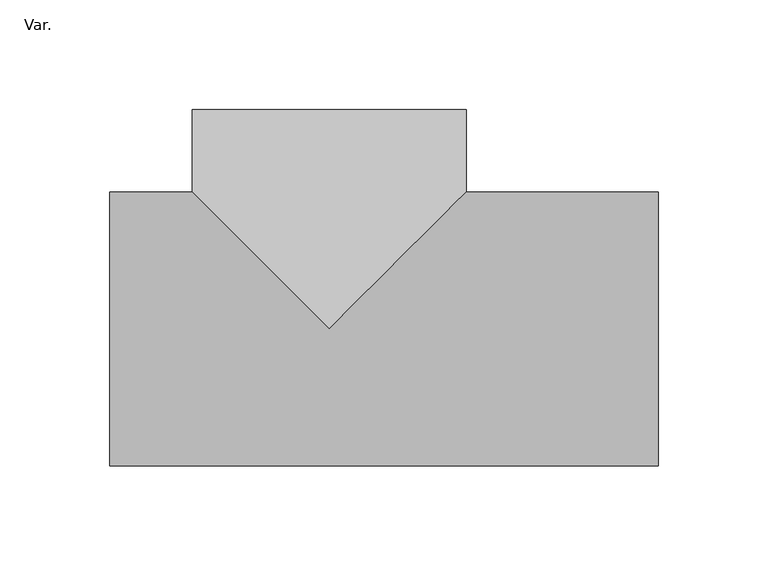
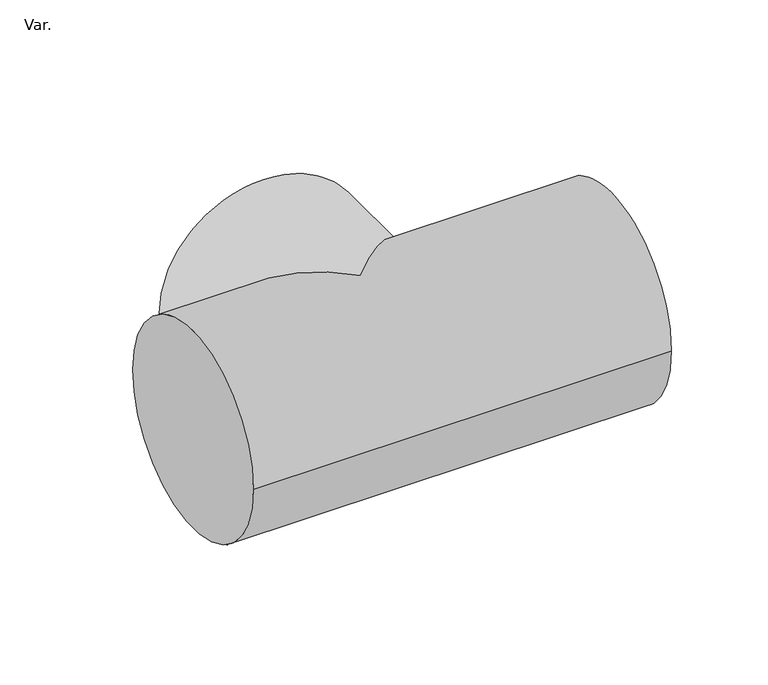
"""IFC4 building model written with IfcOpenShell, lengths in millimetres: pipe fitting geometry, NLRS_52_PIF_UN_HDPE branch_Akatherm : Var.."""

import ifcopenshell
import ifcopenshell.guid

model = None  # the IFC model being written
_history = None  # IfcOwnerHistory: only IFC2X3 demands one
_inside = {}  # id of a spatial element -> (the spatial element, [elements in it])
_under = {}  # id of a project, library or spatial element -> (it, [spatial elements below it])
_declared = {}  # id of a project -> (the project, [libraries it declares])
_typed = {}  # id of a type object -> (the type object, [elements of that type])
_made_of = {}  # id of a material, layer set ... -> (it, [elements and type objects made of it])


def new_model(schema):
    """Start an empty IFC model of exactly this schema.

    Asked for "IFC4X3", IfcOpenShell would pick the latest addendum, in which some entities
    have other attributes; the version numbers below select the first issue.
    IFC2X3 requires an IfcOwnerHistory on every rooted entity: one is made here for all.
    """
    global model, _history
    if schema == "IFC4X3":
        model = ifcopenshell.file(schema_version=(4, 3, 0, 0))
    else:
        model = ifcopenshell.file(schema=schema)
    _inside.clear()
    _under.clear()
    _declared.clear()
    _typed.clear()
    _made_of.clear()
    _history = None
    if model.schema == "IFC2X3":
        org = make("IfcOrganization", Name="unknown")
        user = make(
            "IfcPersonAndOrganization",
            ThePerson=make("IfcPerson", FamilyName="unknown"),
            TheOrganization=org,
        )
        app = make(
            "IfcApplication",
            ApplicationDeveloper=org,
            Version="unknown",
            ApplicationFullName="unknown",
            ApplicationIdentifier="unknown",
        )
        _history = make(
            "IfcOwnerHistory",
            OwningUser=user,
            OwningApplication=app,
            ChangeAction="ADDED",
            CreationDate=0,
        )
    return model


def make(cls, **values):
    """One entity of the class cls with the attributes given. An attribute that is None is left unset."""
    return model.create_entity(
        cls, **{name: value for name, value in values.items() if value is not None}
    )


def rooted(cls, **values):
    """An entity with a GlobalId (a new one), such as an element, a storey or a relation."""
    return make(cls, GlobalId=ifcopenshell.guid.new(), OwnerHistory=_history, **values)


def si_unit(unit_type, name, prefix=None):
    """IfcSIUnit, for example si_unit("LENGTHUNIT", "METRE", prefix="MILLI")."""
    return make("IfcSIUnit", UnitType=unit_type, Prefix=prefix, Name=name)


def assignment(units):
    """IfcUnitAssignment: the units of a project."""
    return None if units is None else make("IfcUnitAssignment", Units=units)


def point(xyz):
    """IfcCartesianPoint."""
    return None if xyz is None else make("IfcCartesianPoint", Coordinates=xyz)


def direction(xyz):
    """IfcDirection."""
    return None if xyz is None else make("IfcDirection", DirectionRatios=xyz)


def frame(location, z_axis=None, x_axis=None):
    """IfcAxis2Placement3D, a coordinate frame: its origin and axes. An axis left out is left unset."""
    return make(
        "IfcAxis2Placement3D",
        Location=point(location),
        Axis=direction(z_axis),
        RefDirection=direction(x_axis),
    )


def origin():
    """The frame at (0, 0, 0) with its axes left unset."""
    return frame((0.0, 0.0, 0.0))


def place(relative_to, where):
    """IfcLocalPlacement: puts the frame where relative to a parent placement (None: the world)."""
    return make(
        "IfcLocalPlacement", PlacementRelTo=relative_to, RelativePlacement=where
    )


def context(
    kind, dimensions, precision=None, world=None, true_north=None, identifier=None
):
    """IfcGeometricRepresentationContext, for example the 3D "Model" context."""
    return make(
        "IfcGeometricRepresentationContext",
        ContextIdentifier=identifier,
        ContextType=kind,
        CoordinateSpaceDimension=dimensions,
        Precision=precision,
        WorldCoordinateSystem=world,
        TrueNorth=true_north,
    )


def project(units=None, contexts=None):
    """IfcProject with its units and contexts."""
    return rooted(
        "IfcProject",
        Name="project",
        RepresentationContexts=contexts,
        UnitsInContext=assignment(units),
    )


def spatial(cls, under=None, at=None, **own):
    """A site, building, storey or space (cls), placed at a placement, below another one or the project."""
    s = rooted(cls, ObjectPlacement=at, **own)
    if under is not None:
        _under.setdefault(under.id(), (under, []))[1].append(s)
    return s


def circle_curve(where, radius):
    """IfcCircle in the frame where."""
    return make("IfcCircle", Position=where, Radius=radius)


def ellipse_curve(where, semi_axis1, semi_axis2):
    """IfcEllipse in the frame where."""
    return make(
        "IfcEllipse", Position=where, SemiAxis1=semi_axis1, SemiAxis2=semi_axis2
    )


def shape(context_of_items, identifier, shape_type, items):
    """IfcShapeRepresentation: the items that make up one representation, for example the "Body"."""
    return make(
        "IfcShapeRepresentation",
        ContextOfItems=context_of_items,
        RepresentationIdentifier=identifier,
        RepresentationType=shape_type,
        Items=items,
    )


def source(mapping_origin, context_of_items, identifier, shape_type, items):
    """IfcRepresentationMap: a shape defined once, which mapped items show again and again."""
    return make(
        "IfcRepresentationMap",
        MappingOrigin=mapping_origin,
        MappedRepresentation=shape(context_of_items, identifier, shape_type, items),
    )


def transform(
    local_origin,
    x_axis=None,
    y_axis=None,
    z_axis=None,
    scale=None,
    scale2=None,
    scale3=None,
    uniform=True,
):
    """IfcCartesianTransformationOperator3D, or its non-uniform kind. x_axis, y_axis, z_axis: its Axis1, 2, 3."""
    if uniform:
        return make(
            "IfcCartesianTransformationOperator3D",
            Axis1=direction(x_axis),
            Axis2=direction(y_axis),
            LocalOrigin=point(local_origin),
            Scale=scale,
            Axis3=direction(z_axis),
        )
    return make(
        "IfcCartesianTransformationOperator3DnonUniform",
        Axis1=direction(x_axis),
        Axis2=direction(y_axis),
        LocalOrigin=point(local_origin),
        Scale=scale,
        Axis3=direction(z_axis),
        Scale2=scale2,
        Scale3=scale3,
    )


def mapped(mapping_source, mapping_target):
    """IfcMappedItem: shows the shape of a source again, moved by a transform."""
    return make(
        "IfcMappedItem", MappingSource=mapping_source, MappingTarget=mapping_target
    )


def made_of(thing, what):
    """Note that an element or type object is made of a material, layer set ...; save() writes the relation."""
    if what is not None:
        _made_of.setdefault(what.id(), (what, []))[1].append(thing)
    return thing


def element(
    cls,
    number,
    at=None,
    inside=None,
    cuts=None,
    type_object=None,
    material=None,
    context=None,
    identifier="Body",
    shape_type=None,
    held_by="IfcProductDefinitionShape",
    body=None,
    shapes=None,
    **own,
):
    """One element of the class cls, such as IfcWall. Its Tag is "e" and its number.

    at: its placement. inside: the storey or other place that contains it. cuts: it is an
    opening in that element (IfcRelVoidsElement). A single representation is given by context,
    identifier, shape_type and body (its items); several are given by shapes. held_by: the class
    of the entity that holds the representations. save() writes the other relations.
    """
    e = rooted(cls, Tag="e%d" % number, ObjectPlacement=at, **own)
    if body is not None:
        shapes = [shape(context, identifier, shape_type, body)]
    if shapes is not None:
        e.Representation = make(held_by, Representations=shapes)
    if inside is not None:
        _inside.setdefault(inside.id(), (inside, []))[1].append(e)
    if cuts is not None:
        rooted(
            "IfcRelVoidsElement", RelatingBuildingElement=cuts, RelatedOpeningElement=e
        )
    if type_object is not None:
        _typed.setdefault(type_object.id(), (type_object, []))[1].append(e)
    return made_of(e, material)


def aggregate(whole, parts):
    """IfcRelAggregates: a whole, such as a stair, and the parts it consists of."""
    return rooted("IfcRelAggregates", RelatingObject=whole, RelatedObjects=parts)


def save(model, path):
    """Write the relations noted so far, then the file.

    IfcRelAggregates (storeys below a building ...), IfcRelContainedInSpatialStructure (elements
    in a storey), IfcRelDefinesByType, IfcRelAssociatesMaterial and IfcRelDeclares: one each for
    every whole, place, type object, material and project.
    """
    for whole, parts in _under.values():
        aggregate(whole, parts)
    for where, things in _inside.values():
        rooted(
            "IfcRelContainedInSpatialStructure",
            RelatedElements=things,
            RelatingStructure=where,
        )
    for kind, things in _typed.values():
        rooted("IfcRelDefinesByType", RelatedObjects=things, RelatingType=kind)
    for what, things in _made_of.values():
        rooted("IfcRelAssociatesMaterial", RelatedObjects=things, RelatingMaterial=what)
    for by, libraries in _declared.values():
        rooted("IfcRelDeclares", RelatingContext=by, RelatedDefinitions=libraries)
    model.write(path)


def plane_surface(at):
    """IfcPlane: the flat surface through the origin of the frame at, square to its z axis."""
    return make("IfcPlane", Position=at)


def cylinder_surface(at, radius):
    """IfcCylindricalSurface: all points at the distance radius from the z axis of the frame at."""
    return make("IfcCylindricalSurface", Position=at, Radius=radius)


def advanced_brep(points, edges, surfaces, faces):
    """IfcAdvancedBrep: a solid bounded by faces that lie on surfaces and meet in shared edges.

    An edge is (start, end): straight between two places in points (the first is 0);
    or (start, end, curve); or (start, end, curve, False) where it runs against its curve.
    A face is (place in surfaces, loops), or (place, loops, False) where it looks against
    its surface's normal. A loop lists edges by number (the first is 1), with a minus sign
    where the edge is run from its end to its start. The first loop is the outer one.
    """
    corners = [point(p) for p in points]
    vertices = [make("IfcVertexPoint", VertexGeometry=c) for c in corners]
    made = []
    for start, end, *more in edges:
        made.append(
            make(
                "IfcEdgeCurve",
                EdgeStart=vertices[start],
                EdgeEnd=vertices[end],
                EdgeGeometry=more[0] if more else make("IfcPolyline", Points=[corners[start], corners[end]]),
                SameSense=more[1] if len(more) > 1 else True,
            )
        )
    hull = []
    for where, loops, *sense in faces:
        bounds = []
        for j, loop in enumerate(loops):
            ring = [make("IfcOrientedEdge", EdgeElement=made[abs(k) - 1], Orientation=k > 0) for k in loop]
            bounds.append(
                make(
                    "IfcFaceOuterBound" if j == 0 else "IfcFaceBound",
                    Bound=make("IfcEdgeLoop", EdgeList=ring),
                    Orientation=True,
                )
            )
        hull.append(make("IfcAdvancedFace", Bounds=bounds, FaceSurface=surfaces[where], SameSense=sense[0] if sense else True))
    return make("IfcAdvancedBrep", Outer=make("IfcClosedShell", CfsFaces=hull))


def var_7b0d4120(model_context):
    return source(origin(), model_context, "Body", "AdvancedBrep", [
        advanced_brep(
        [(-100.0, -62.5, 0.0), (-100.0, 62.5, 0.0), (150.0, -62.5, 0.0), (150.0, 62.5, 0.0), (62.5, 62.5, 0.0), (0.0, 0.0, 62.5), (-62.5, 62.5, 0.0), (0.0, 0.0, -62.5), (62.5, 100.0, 0.0), (-62.5, 100.0, 0.0)],
        [
            (0, 1, circle_curve(frame((-100.0, 0.0, 0.0), z_axis=(-1.0, 0.0, 0.0), x_axis=(0.0, 1.0, 0.0)), 62.5)),
            (1, 0, circle_curve(frame((-100.0, 0.0, 0.0), z_axis=(-1.0, 0.0, 0.0), x_axis=(0.0, 1.0, 0.0)), 62.5)),
            (2, 3, circle_curve(frame((150.0, 0.0, 0.0), z_axis=(1.0, 0.0, 0.0), x_axis=(0.0, 1.0, 0.0)), 62.5)),
            (3, 2, circle_curve(frame((150.0, 0.0, 0.0), z_axis=(1.0, 0.0, 0.0), x_axis=(0.0, 1.0, 0.0)), 62.5)),
            (0, 2),
            (3, 4),
            (4, 5, ellipse_curve(frame((0.0, 0.0, 0.0), z_axis=(0.7071067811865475, -0.7071067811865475, 0.0), x_axis=(-0.7071067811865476, -0.7071067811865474, 0.0)), 88.3883476, 62.5)),
            (5, 6, ellipse_curve(frame((0.0, 0.0, 0.0), z_axis=(-0.7071067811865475, -0.7071067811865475, 0.0), x_axis=(-0.7071067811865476, 0.7071067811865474, 0.0)), 88.3883476, 62.5)),
            (6, 1),
            (6, 7, ellipse_curve(frame((0.0, 0.0, 0.0), z_axis=(-0.7071067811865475, -0.7071067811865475, 0.0), x_axis=(-0.7071067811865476, 0.7071067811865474, 0.0)), 88.3883476, 62.5)),
            (7, 4, ellipse_curve(frame((0.0, 0.0, 0.0), z_axis=(0.7071067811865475, -0.7071067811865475, 0.0), x_axis=(-0.7071067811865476, -0.7071067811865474, 0.0)), 88.3883476, 62.5)),
            (8, 9, circle_curve(frame((0.0, 100.0, 0.0), z_axis=(0.0, 1.0, 0.0), x_axis=(-1.0, 0.0, 0.0)), 62.5)),
            (9, 8, circle_curve(frame((0.0, 100.0, 0.0), z_axis=(0.0, 1.0, 0.0), x_axis=(-1.0, 0.0, 0.0)), 62.5)),
            (9, 6),
            (4, 8),
        ],
        [
            plane_surface(frame((-100.0, 0.0, 0.0), z_axis=(-1.0, 0.0, 0.0), x_axis=(0.0, 0.0, 1.0))),
            plane_surface(frame((150.0, 0.0, 0.0), z_axis=(1.0, 0.0, 0.0), x_axis=(0.0, 0.0, 1.0))),
            cylinder_surface(frame((-100.0, 0.0, 0.0), z_axis=(-1.0, 0.0, 0.0), x_axis=(0.0, 1.0, 0.0)), 62.5),
            plane_surface(frame((0.0, 100.0, 0.0), z_axis=(0.0, 1.0, 0.0), x_axis=(0.0, 0.0, 1.0))),
            cylinder_surface(frame((0.0, 0.0, 0.0), z_axis=(0.0, -1.0, 0.0), x_axis=(-1.0, 0.0, 0.0)), 62.5),
        ],
        [
            (0, [[1, 2]]),
            (1, [[3, 4]]),
            (2, [[-1, 5, -4, 6, 7, 8, 9]]),
            (2, [[-2, -9, 10, 11, -6, -3, -5]]),
            (3, [[12, 13]]),
            (4, [[-13, 14, -8, -7, 15]]),
            (4, [[-12, -15, -11, -10, -14]]),
        ],
    ),
    ])


if __name__ == "__main__":
    model = new_model("IFC4")
    model_context = context("Model", 3, world=origin())
    ifc_project = project(units=[si_unit("LENGTHUNIT", "METRE", prefix="MILLI")], contexts=[model_context])
    site = spatial("IfcSite", under=ifc_project)
    building = spatial("IfcBuilding", under=site)
    placement = place(None, origin())
    var_shape = var_7b0d4120(model_context)
    element("IfcPipeFitting", 1, ObjectType="NLRS_52_PIF_UN_HDPE branch_Akatherm : Var.", at=placement, inside=building, context=model_context, shape_type="MappedRepresentation", body=[
        mapped(var_shape, transform((0.0, 0.0, 0.0), x_axis=(1.0, 0.0, 0.0), y_axis=(0.0, 1.0, 0.0), z_axis=(0.0, 0.0, 1.0))),
    ])
    save(model, "model.ifc")
